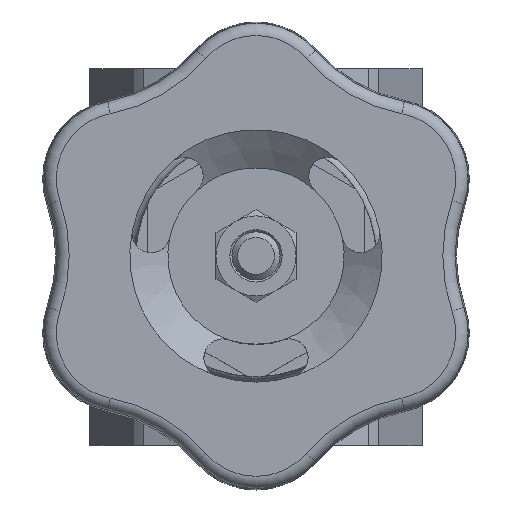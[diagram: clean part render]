
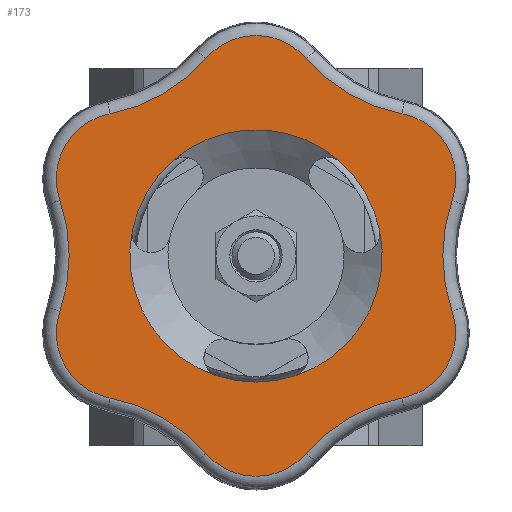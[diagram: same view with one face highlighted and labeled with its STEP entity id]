
A CAD part, top view. The second image highlights one B-rep face of the part: STEP entity #173.
In plain terms, the highlighted planar face has unit normal (0, 0, 1).
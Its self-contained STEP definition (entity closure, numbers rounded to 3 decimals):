
#173=ADVANCED_FACE('',(#1375,#1377),#1379,.T.);
#1375=FACE_BOUND('',#1376,.T.);
#1376=EDGE_LOOP('',(#4288,#4289,#4290,#4291,#4292,#4293,#4294,#4295,#4296,#4297,
#4298,#4299));
#1377=FACE_BOUND('',#1378,.T.);
#1378=EDGE_LOOP('',(#4300,#4301,#4302,#4303,#4304,#4305));
#1379=PLANE('',#1380);
#1380=AXIS2_PLACEMENT_3D('',#1381,#1382,#1383);
#1381=CARTESIAN_POINT('',(0.,0.,88.6));
#1382=DIRECTION('',(0.,0.,1.));
#1383=DIRECTION('',(-1.,0.,0.));
#4288=ORIENTED_EDGE('',*,*,#6612,.F.);
#4289=ORIENTED_EDGE('',*,*,#6613,.F.);
#4290=ORIENTED_EDGE('',*,*,#6614,.F.);
#4291=ORIENTED_EDGE('',*,*,#6615,.F.);
#4292=ORIENTED_EDGE('',*,*,#6616,.F.);
#4293=ORIENTED_EDGE('',*,*,#6617,.F.);
#4294=ORIENTED_EDGE('',*,*,#6618,.F.);
#4295=ORIENTED_EDGE('',*,*,#6619,.F.);
#4296=ORIENTED_EDGE('',*,*,#6620,.F.);
#4297=ORIENTED_EDGE('',*,*,#6621,.F.);
#4298=ORIENTED_EDGE('',*,*,#6622,.F.);
#4299=ORIENTED_EDGE('',*,*,#6623,.F.);
#4300=ORIENTED_EDGE('',*,*,#6593,.T.);
#4301=ORIENTED_EDGE('',*,*,#6592,.T.);
#4302=ORIENTED_EDGE('',*,*,#6595,.T.);
#4303=ORIENTED_EDGE('',*,*,#6597,.T.);
#4304=ORIENTED_EDGE('',*,*,#6596,.T.);
#4305=ORIENTED_EDGE('',*,*,#6598,.T.);
#6592=EDGE_CURVE('',#7866,#7885,#7926,.T.);
#6593=EDGE_CURVE('',#7906,#7866,#7927,.F.);
#6595=EDGE_CURVE('',#7885,#7892,#7930,.F.);
#6596=EDGE_CURVE('',#7895,#7903,#7931,.F.);
#6597=EDGE_CURVE('',#7892,#7895,#7932,.T.);
#6598=EDGE_CURVE('',#7903,#7906,#7933,.T.);
#6612=EDGE_CURVE('',#7954,#7955,#7956,.F.);
#6613=EDGE_CURVE('',#7957,#7954,#7958,.F.);
#6614=EDGE_CURVE('',#7959,#7957,#7960,.F.);
#6615=EDGE_CURVE('',#7961,#7959,#7962,.F.);
#6616=EDGE_CURVE('',#7963,#7961,#7964,.F.);
#6617=EDGE_CURVE('',#7965,#7963,#7966,.F.);
#6618=EDGE_CURVE('',#7967,#7965,#7968,.F.);
#6619=EDGE_CURVE('',#7969,#7967,#7970,.F.);
#6620=EDGE_CURVE('',#7971,#7969,#7972,.F.);
#6621=EDGE_CURVE('',#7973,#7971,#7974,.F.);
#6622=EDGE_CURVE('',#7975,#7973,#7976,.F.);
#6623=EDGE_CURVE('',#7955,#7975,#7977,.F.);
#7866=VERTEX_POINT('',#11564);
#7885=VERTEX_POINT('',#11922);
#7892=VERTEX_POINT('',#12011);
#7895=VERTEX_POINT('',#12072);
#7903=VERTEX_POINT('',#12146);
#7906=VERTEX_POINT('',#12231);
#7926=CIRCLE('',#12337,15.75);
#7927=CIRCLE('',#12341,15.75);
#7930=CIRCLE('',#12350,15.75);
#7931=CIRCLE('',#12354,15.75);
#7932=CIRCLE('',#12358,15.75);
#7933=CIRCLE('',#12362,15.75);
#7954=VERTEX_POINT('',#12684);
#7955=VERTEX_POINT('',#12685);
#7956=CIRCLE('',#12686,8.275);
#7957=VERTEX_POINT('',#12690);
#7958=CIRCLE('',#12691,21.05);
#7959=VERTEX_POINT('',#12695);
#7960=CIRCLE('',#12696,8.275);
#7961=VERTEX_POINT('',#12700);
#7962=CIRCLE('',#12701,21.05);
#7963=VERTEX_POINT('',#12705);
#7964=CIRCLE('',#12706,8.275);
#7965=VERTEX_POINT('',#12710);
#7966=CIRCLE('',#12711,21.05);
#7967=VERTEX_POINT('',#12715);
#7968=CIRCLE('',#12716,8.275);
#7969=VERTEX_POINT('',#12720);
#7970=CIRCLE('',#12721,21.05);
#7971=VERTEX_POINT('',#12725);
#7972=CIRCLE('',#12726,8.275);
#7973=VERTEX_POINT('',#12730);
#7974=CIRCLE('',#12731,21.05);
#7975=VERTEX_POINT('',#12735);
#7976=CIRCLE('',#12736,8.275);
#7977=CIRCLE('',#12740,21.05);
#11564=CARTESIAN_POINT('',(15.404,3.281,88.6));
#11922=CARTESIAN_POINT('',(4.86,-14.981,88.6));
#12011=CARTESIAN_POINT('',(-4.86,-14.981,88.6));
#12072=CARTESIAN_POINT('',(-15.404,3.281,88.6));
#12146=CARTESIAN_POINT('',(-10.544,11.7,88.6));
#12231=CARTESIAN_POINT('',(10.544,11.7,88.6));
#12337=AXIS2_PLACEMENT_3D('',#12338,#12339,#12340);
#12338=CARTESIAN_POINT('',(0.,0.,88.6));
#12339=DIRECTION('',(0.,0.,-1.));
#12340=DIRECTION('',(0.978,0.208,0.));
#12341=AXIS2_PLACEMENT_3D('',#12342,#12343,#12344);
#12342=CARTESIAN_POINT('',(0.,0.,88.6));
#12343=DIRECTION('',(0.,0.,1.));
#12344=DIRECTION('',(0.978,0.208,0.));
#12350=AXIS2_PLACEMENT_3D('',#12351,#12352,#12353);
#12351=CARTESIAN_POINT('',(0.,0.,88.6));
#12352=DIRECTION('',(0.,0.,1.));
#12353=DIRECTION('',(-0.309,-0.951,0.));
#12354=AXIS2_PLACEMENT_3D('',#12355,#12356,#12357);
#12355=CARTESIAN_POINT('',(0.,0.,88.6));
#12356=DIRECTION('',(0.,0.,1.));
#12357=DIRECTION('',(-0.669,0.743,0.));
#12358=AXIS2_PLACEMENT_3D('',#12359,#12360,#12361);
#12359=CARTESIAN_POINT('',(0.,0.,88.6));
#12360=DIRECTION('',(0.,0.,-1.));
#12361=DIRECTION('',(-0.309,-0.951,0.));
#12362=AXIS2_PLACEMENT_3D('',#12363,#12364,#12365);
#12363=CARTESIAN_POINT('',(0.,0.,88.6));
#12364=DIRECTION('',(0.,0.,-1.));
#12365=DIRECTION('',(-0.669,0.743,0.));
#12684=CARTESIAN_POINT('',(-24.466,6.9,88.6));
#12685=CARTESIAN_POINT('',(-18.208,17.738,88.6));
#12686=AXIS2_PLACEMENT_3D('',#12687,#12688,#12689);
#12687=CARTESIAN_POINT('',(-16.648,9.612,88.6));
#12688=DIRECTION('',(0.,0.,1.));
#12689=DIRECTION('',(-0.189,0.982,0.));
#12690=CARTESIAN_POINT('',(-24.466,-6.9,88.6));
#12691=AXIS2_PLACEMENT_3D('',#12692,#12693,#12694);
#12692=CARTESIAN_POINT('',(-44.352,0.,88.6));
#12693=DIRECTION('',(0.,0.,-1.));
#12694=DIRECTION('',(0.945,0.328,0.));
#12695=CARTESIAN_POINT('',(-18.208,-17.738,88.6));
#12696=AXIS2_PLACEMENT_3D('',#12697,#12698,#12699);
#12697=CARTESIAN_POINT('',(-16.648,-9.612,88.6));
#12698=DIRECTION('',(0.,0.,1.));
#12699=DIRECTION('',(-0.945,0.328,0.));
#12700=CARTESIAN_POINT('',(-6.258,-24.638,88.6));
#12701=AXIS2_PLACEMENT_3D('',#12702,#12703,#12704);
#12702=CARTESIAN_POINT('',(-22.176,-38.41,88.6));
#12703=DIRECTION('',(0.,0.,-1.));
#12704=DIRECTION('',(0.189,0.982,0.));
#12705=CARTESIAN_POINT('',(6.258,-24.638,88.6));
#12706=AXIS2_PLACEMENT_3D('',#12707,#12708,#12709);
#12707=CARTESIAN_POINT('',(0.,-19.224,88.6));
#12708=DIRECTION('',(0.,0.,1.));
#12709=DIRECTION('',(-0.756,-0.654,0.));
#12710=CARTESIAN_POINT('',(18.208,-17.738,88.6));
#12711=AXIS2_PLACEMENT_3D('',#12712,#12713,#12714);
#12712=CARTESIAN_POINT('',(22.176,-38.41,88.6));
#12713=DIRECTION('',(0.,0.,-1.));
#12714=DIRECTION('',(-0.756,0.654,0.));
#12715=CARTESIAN_POINT('',(24.466,-6.9,88.6));
#12716=AXIS2_PLACEMENT_3D('',#12717,#12718,#12719);
#12717=CARTESIAN_POINT('',(16.648,-9.612,88.6));
#12718=DIRECTION('',(0.,0.,1.));
#12719=DIRECTION('',(0.189,-0.982,0.));
#12720=CARTESIAN_POINT('',(24.466,6.9,88.6));
#12721=AXIS2_PLACEMENT_3D('',#12722,#12723,#12724);
#12722=CARTESIAN_POINT('',(44.352,0.,88.6));
#12723=DIRECTION('',(0.,0.,-1.));
#12724=DIRECTION('',(-0.945,-0.328,0.));
#12725=CARTESIAN_POINT('',(18.208,17.738,88.6));
#12726=AXIS2_PLACEMENT_3D('',#12727,#12728,#12729);
#12727=CARTESIAN_POINT('',(16.648,9.612,88.6));
#12728=DIRECTION('',(0.,0.,1.));
#12729=DIRECTION('',(0.945,-0.328,0.));
#12730=CARTESIAN_POINT('',(6.258,24.638,88.6));
#12731=AXIS2_PLACEMENT_3D('',#12732,#12733,#12734);
#12732=CARTESIAN_POINT('',(22.176,38.41,88.6));
#12733=DIRECTION('',(0.,0.,-1.));
#12734=DIRECTION('',(-0.189,-0.982,0.));
#12735=CARTESIAN_POINT('',(-6.258,24.638,88.6));
#12736=AXIS2_PLACEMENT_3D('',#12737,#12738,#12739);
#12737=CARTESIAN_POINT('',(0.,19.224,88.6));
#12738=DIRECTION('',(0.,0.,1.));
#12739=DIRECTION('',(0.756,0.654,0.));
#12740=AXIS2_PLACEMENT_3D('',#12741,#12742,#12743);
#12741=CARTESIAN_POINT('',(-22.176,38.41,88.6));
#12742=DIRECTION('',(0.,0.,-1.));
#12743=DIRECTION('',(0.756,-0.654,0.));
